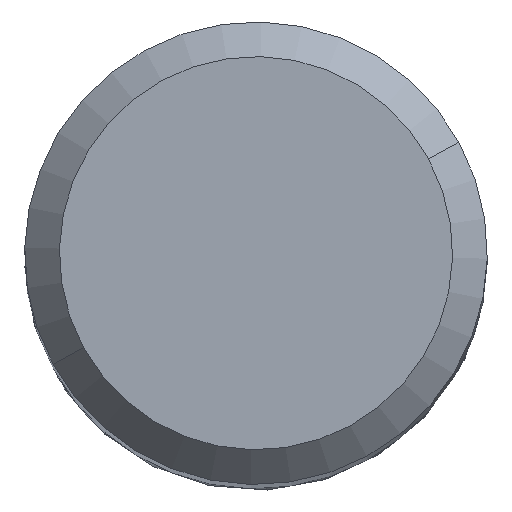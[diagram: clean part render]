
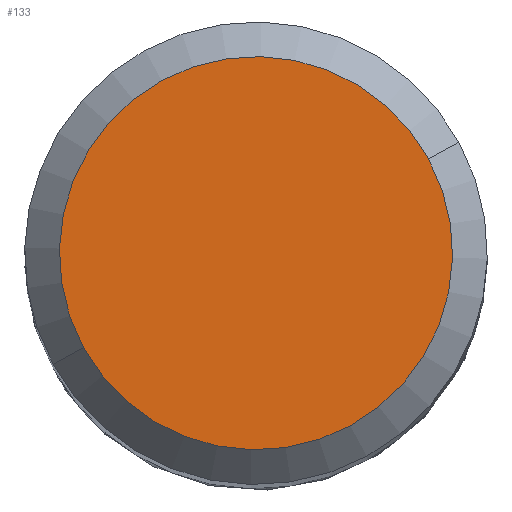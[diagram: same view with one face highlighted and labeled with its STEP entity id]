
A CAD part, top view. The second image highlights one B-rep face of the part: STEP entity #133.
In plain terms, the highlighted planar face has unit normal (0, 0, 1).
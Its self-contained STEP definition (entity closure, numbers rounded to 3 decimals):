
#86=AXIS2_PLACEMENT_3D('Circle Axis2P3D',#84,#85,$) ;
#122=AXIS2_PLACEMENT_3D('Plane Axis2P3D',#119,#120,#121) ;
#126=AXIS2_PLACEMENT_3D('Circle Axis2P3D',#124,#125,$) ;
#84=CARTESIAN_POINT('Axis2P3D Location',(0.,0.,63.)) ;
#88=CARTESIAN_POINT('Vertex',(2.984,1.63,63.)) ;
#90=CARTESIAN_POINT('Vertex',(-2.984,-1.63,63.)) ;
#119=CARTESIAN_POINT('Axis2P3D Location',(3.4,0.,63.)) ;
#124=CARTESIAN_POINT('Axis2P3D Location',(0.,0.,63.)) ;
#85=DIRECTION('Axis2P3D Direction',(0.,0.,-1.)) ;
#120=DIRECTION('Axis2P3D Direction',(0.,0.,1.)) ;
#121=DIRECTION('Axis2P3D XDirection',(1.,0.,0.)) ;
#125=DIRECTION('Axis2P3D Direction',(0.,0.,1.)) ;
#130=ORIENTED_EDGE('',*,*,#92,.T.) ;
#131=ORIENTED_EDGE('',*,*,#128,.T.) ;
#133=ADVANCED_FACE('NOCUT',(#132),#123,.T.) ;
#87=CIRCLE('generated circle',#86,3.4) ;
#127=CIRCLE('generated circle',#126,3.4) ;
#92=EDGE_CURVE('',#89,#91,#87,.F.) ;
#128=EDGE_CURVE('',#91,#89,#127,.T.) ;
#129=EDGE_LOOP('',(#130,#131)) ;
#132=FACE_OUTER_BOUND('',#129,.T.) ;
#123=PLANE('',#122) ;
#89=VERTEX_POINT('',#88) ;
#91=VERTEX_POINT('',#90) ;
